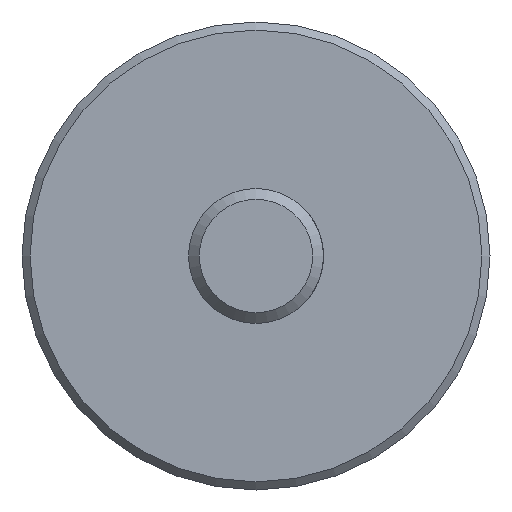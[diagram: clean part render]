
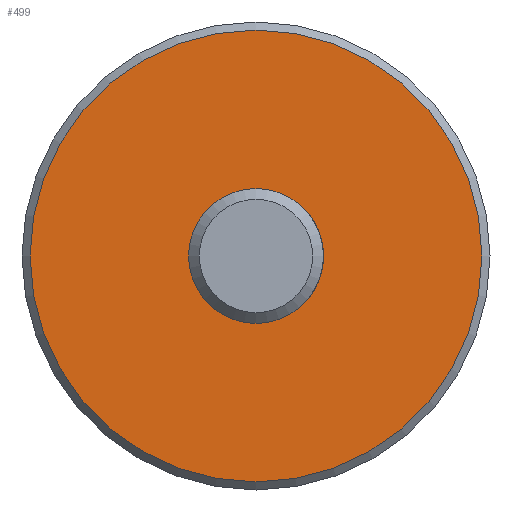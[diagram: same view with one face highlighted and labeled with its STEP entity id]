
A CAD part, front view. The second image highlights one B-rep face of the part: STEP entity #499.
In plain terms, the highlighted planar face has unit normal (0, -1, 0).
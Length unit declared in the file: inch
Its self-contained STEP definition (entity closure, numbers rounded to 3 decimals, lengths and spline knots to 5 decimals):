
#30 = CARTESIAN_POINT ( 'NONE',  ( 0., 3.35, 0. ) ) ;
#40 = AXIS2_PLACEMENT_3D ( 'NONE', #239, #67, #364 ) ;
#56 = FACE_OUTER_BOUND ( 'NONE', #318, .T. ) ;
#64 = PLANE ( 'NONE',  #40 ) ;
#67 = DIRECTION ( 'NONE',  ( 0., 1., 0. ) ) ;
#69 = DIRECTION ( 'NONE',  ( 0., 0., 1. ) ) ;
#74 = CARTESIAN_POINT ( 'NONE',  ( 0., 3.35, 0.375 ) ) ;
#104 = AXIS2_PLACEMENT_3D ( 'NONE', #560, #301, #69 ) ;
#112 = EDGE_CURVE ( 'NONE', #167, #167, #271, .T. ) ;
#118 = DIRECTION ( 'NONE',  ( 0., 0., 1. ) ) ;
#139 = ORIENTED_EDGE ( 'NONE', *, *, #266, .T. ) ;
#149 = EDGE_LOOP ( 'NONE', ( #139 ) ) ;
#162 = CIRCLE ( 'NONE', #382, 0.375 ) ;
#167 = VERTEX_POINT ( 'NONE', #567 ) ;
#239 = CARTESIAN_POINT ( 'NONE',  ( 0.375, 3.35, 0. ) ) ;
#266 = EDGE_CURVE ( 'NONE', #444, #444, #162, .T. ) ;
#271 = CIRCLE ( 'NONE', #104, 1.255 ) ;
#301 = DIRECTION ( 'NONE',  ( 0., 1., 0. ) ) ;
#318 = EDGE_LOOP ( 'NONE', ( #409 ) ) ;
#364 = DIRECTION ( 'NONE',  ( 0., 0., 1. ) ) ;
#381 = DIRECTION ( 'NONE',  ( 0., 1., 0. ) ) ;
#382 = AXIS2_PLACEMENT_3D ( 'NONE', #30, #381, #118 ) ;
#409 = ORIENTED_EDGE ( 'NONE', *, *, #112, .F. ) ;
#444 = VERTEX_POINT ( 'NONE', #74 ) ;
#499 = ADVANCED_FACE ( 'NONE', ( #56, #545 ), #64, .F. ) ;
#545 = FACE_BOUND ( 'NONE', #149, .T. ) ;
#560 = CARTESIAN_POINT ( 'NONE',  ( 0., 3.35, 0. ) ) ;
#567 = CARTESIAN_POINT ( 'NONE',  ( 0., 3.35, 1.255 ) ) ;
